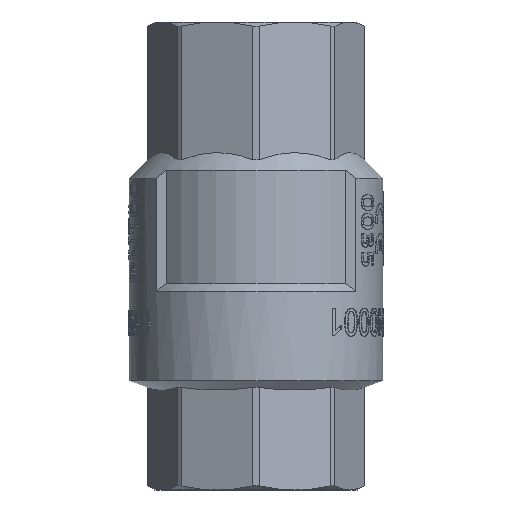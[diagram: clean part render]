
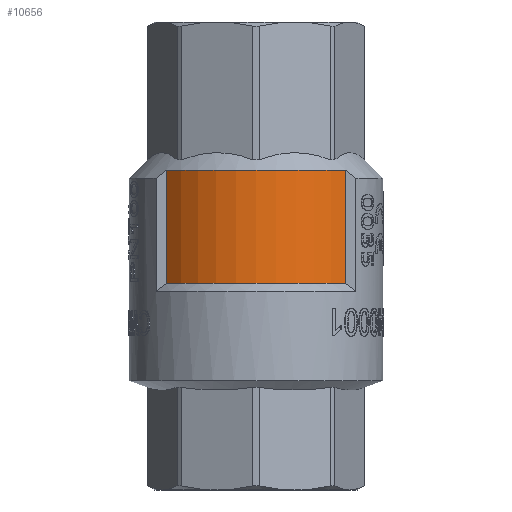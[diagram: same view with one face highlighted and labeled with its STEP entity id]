
A CAD part, front view. The second image highlights one B-rep face of the part: STEP entity #10656.
In plain terms, the highlighted cylindrical face has radius 15.25 mm (diameter 30.5 mm), a partial arc.
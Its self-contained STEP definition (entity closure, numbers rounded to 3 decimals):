
#716=CIRCLE('',#11205,15.25);
#718=CIRCLE('',#11209,15.25);
#1634=FACE_OUTER_BOUND('',#2272,.T.);
#2272=EDGE_LOOP('',(#9425,#9426,#9427,#9428));
#3502=LINE('',#27580,#4198);
#3503=LINE('',#27583,#4199);
#4198=VECTOR('',#12804,10.);
#4199=VECTOR('',#12807,10.);
#5182=VERTEX_POINT('',#27558);
#5183=VERTEX_POINT('',#27562);
#5186=VERTEX_POINT('',#27579);
#5187=VERTEX_POINT('',#27581);
#6630=EDGE_CURVE('',#5183,#5182,#716,.T.);
#6635=EDGE_CURVE('',#5182,#5186,#3502,.T.);
#6636=EDGE_CURVE('',#5187,#5186,#718,.T.);
#6637=EDGE_CURVE('',#5187,#5183,#3503,.T.);
#9425=ORIENTED_EDGE('',*,*,#6635,.T.);
#9426=ORIENTED_EDGE('',*,*,#6636,.F.);
#9427=ORIENTED_EDGE('',*,*,#6637,.T.);
#9428=ORIENTED_EDGE('',*,*,#6630,.T.);
#10157=CYLINDRICAL_SURFACE('',#11208,15.25);
#10656=ADVANCED_FACE('',(#1634),#10157,.T.);
#11205=AXIS2_PLACEMENT_3D('',#27563,#12796,#12797);
#11208=AXIS2_PLACEMENT_3D('',#27578,#12802,#12803);
#11209=AXIS2_PLACEMENT_3D('',#27582,#12805,#12806);
#12796=DIRECTION('center_axis',(0.,0.,1.));
#12797=DIRECTION('ref_axis',(1.,0.,0.));
#12802=DIRECTION('center_axis',(0.,0.,1.));
#12803=DIRECTION('ref_axis',(0.,-1.,0.));
#12804=DIRECTION('',(0.,0.,1.));
#12805=DIRECTION('center_axis',(0.,0.,1.));
#12806=DIRECTION('ref_axis',(1.,0.,0.));
#12807=DIRECTION('',(0.,0.,-1.));
#27558=CARTESIAN_POINT('',(11.514,-10.,-3.662));
#27562=CARTESIAN_POINT('',(-11.514,-10.,-3.662));
#27563=CARTESIAN_POINT('Origin',(0.,0.,-3.662));
#27578=CARTESIAN_POINT('Origin',(0.,0.,3.588));
#27579=CARTESIAN_POINT('',(11.514,-10.,10.838));
#27580=CARTESIAN_POINT('',(11.514,-10.,3.588));
#27581=CARTESIAN_POINT('',(-11.514,-10.,10.838));
#27582=CARTESIAN_POINT('Origin',(0.,0.,10.838));
#27583=CARTESIAN_POINT('',(-11.514,-10.,3.588));
